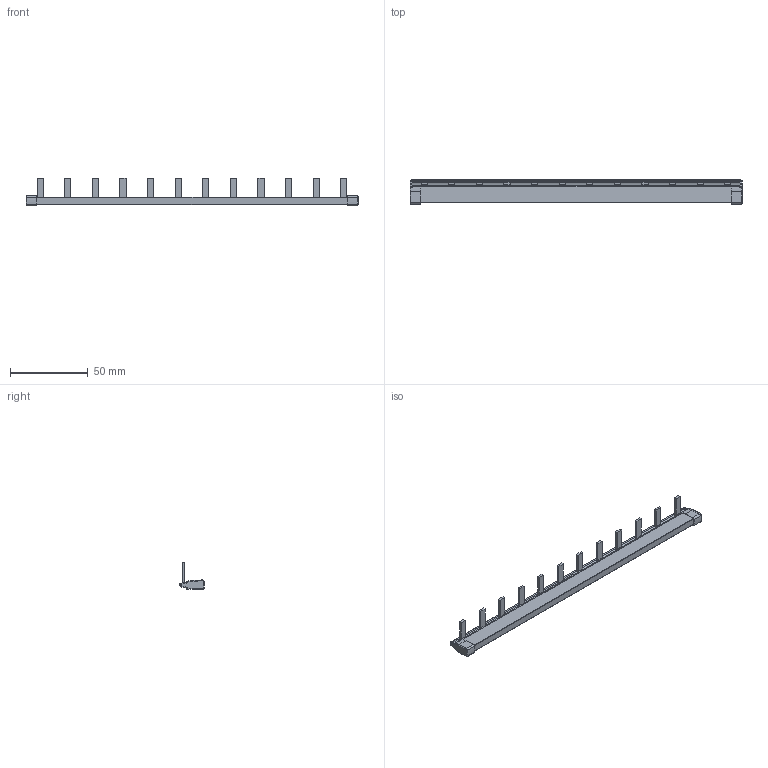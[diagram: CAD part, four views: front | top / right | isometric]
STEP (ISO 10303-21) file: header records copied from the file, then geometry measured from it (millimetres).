
FILE_DESCRIPTION (( 'STEP AP214' ), '1' );
FILE_NAME ('5040667 EZ9XPH112.STEP', '2019-10-01T12:54:12', ( '' ), ( '' ), 'SwSTEP 2.0', 'SolidWorks 2018', '' );
FILE_SCHEMA (( 'AUTOMOTIVE_DESIGN' ));
Length unit declared in the file: millimetre
Products named in the file (4): 5040667 EZ9XPH112; 122xxxx Phasenschienen einpolig abgewinkelt_1220203 S-1L-210_10  12 Mod; 1310402 EK-C1_10_16_1310402 EK-C-1-16 ; 13403xx_1340327 212 mm grau
Assembly tree (4 placements, depth 2):
  5040667 EZ9XPH112
    13403xx_1340327 212 mm grau
    122xxxx Phasenschienen einpolig abgewinkelt_1220203 S-1L-210_10  12 Mod
    1310402 EK-C1_10_16_1310402 EK-C-1-16   x2
Bounding box: 214 x 15.87 x 17.68 mm (x, y, z)
Volume: 9893.7 mm3; surface area: 19444.6 mm2
Topology: 4 solids, 4 shells, 353 faces, 863 edges, 518 vertices
Faces by surface type: plane 164, cylinder 111, torus 32, bspline 24, cone 22
Entity records: 7962 total; most frequent: CARTESIAN_POINT 1739, DIRECTION 1304, ORIENTED_EDGE 1264, EDGE_CURVE 632, AXIS2_PLACEMENT_3D 467, VERTEX_POINT 378, VECTOR 370, LINE 370
